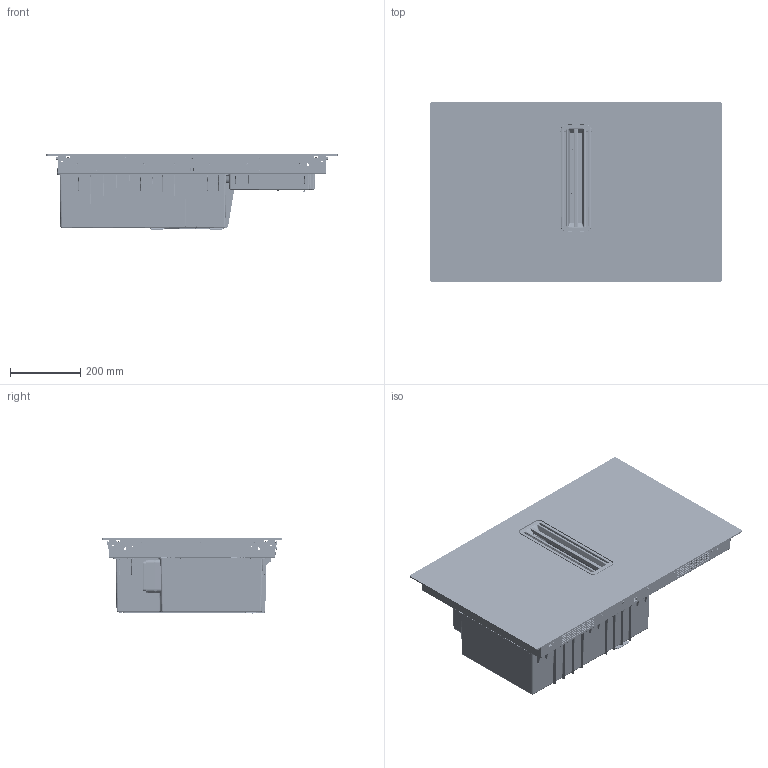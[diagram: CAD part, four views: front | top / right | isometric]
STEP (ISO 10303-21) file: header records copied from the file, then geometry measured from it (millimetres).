
FILE_DESCRIPTION(('CATIA V5 STEP'),'2;1');
FILE_NAME('C:\Users\BayerSte\tc14tcicv5_localdir\catuii\ComboFlexi_20240229_M0434132_AllCATPart.stp','2024-02-29T14:21:00+00:00',('none'),('Electrolux'),'CATIA Version 5-6 Release 2016 SP5','CATIA V5 STEP AP203','none');
FILE_SCHEMA(('CONFIG_CONTROL_DESIGN'));
Products named in the file (1): ComboFlexi_20240229_M0434132_AllCATPart
Bounding box: 830 x 515 x 215.5 mm (x, y, z)
Volume: 3975719.4 mm3; surface area: 3348435.5 mm2
Topology: 70 solids, 70 shells, 22772 faces, 58797 edges, 35395 vertices
Faces by surface type: cylinder 7467, plane 6452, bspline 5007, torus 2233, cone 876, sphere 486, extrusion 177, revolution 74
Entity records: 952464 total; most frequent: CARTESIAN_POINT 467102, ORIENTED_EDGE 116160, DIRECTION 70511, EDGE_CURVE 58080, VERTEX_POINT 35395, AXIS2_PLACEMENT_3D 30184, EDGE_LOOP 24217, VECTOR 24092
